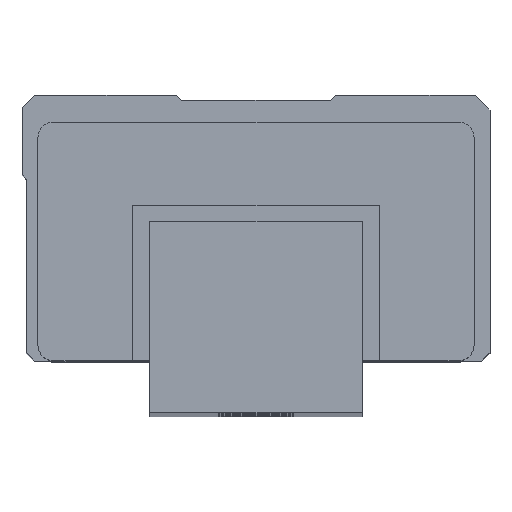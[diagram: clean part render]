
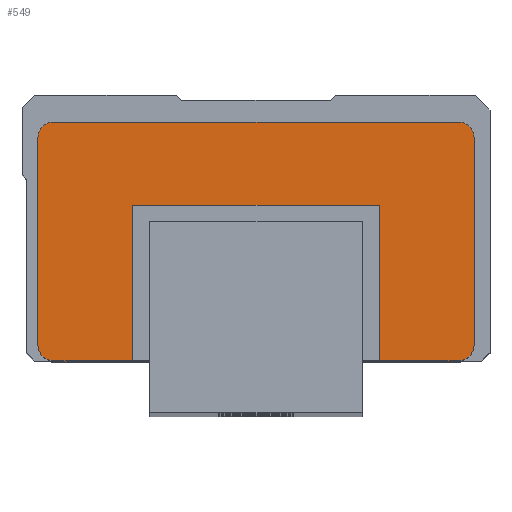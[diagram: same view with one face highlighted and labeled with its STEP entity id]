
A CAD part, top view. The second image highlights one B-rep face of the part: STEP entity #549.
In plain terms, the highlighted planar face has unit normal (0, 0, 1).
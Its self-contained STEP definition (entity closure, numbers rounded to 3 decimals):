
#549 = ADVANCED_FACE( '', ( #847 ), #848, .T. );
#847 = FACE_OUTER_BOUND( '', #1143, .T. );
#848 = PLANE( '', #1144 );
#1143 = EDGE_LOOP( '', ( #2209, #2210, #2211, #2212, #2213, #2214, #2215, #2216, #2217, #2218, #2219, #2220 ) );
#1144 = AXIS2_PLACEMENT_3D( '', #2221, #2222, #2223 );
#2209 = ORIENTED_EDGE( '', *, *, #2551, .F. );
#2210 = ORIENTED_EDGE( '', *, *, #2575, .F. );
#2211 = ORIENTED_EDGE( '', *, *, #2572, .F. );
#2212 = ORIENTED_EDGE( '', *, *, #2569, .F. );
#2213 = ORIENTED_EDGE( '', *, *, #2566, .F. );
#2214 = ORIENTED_EDGE( '', *, *, #2563, .F. );
#2215 = ORIENTED_EDGE( '', *, *, #2546, .F. );
#2216 = ORIENTED_EDGE( '', *, *, #2533, .F. );
#2217 = ORIENTED_EDGE( '', *, *, #2529, .F. );
#2218 = ORIENTED_EDGE( '', *, *, #2561, .F. );
#2219 = ORIENTED_EDGE( '', *, *, #2558, .F. );
#2220 = ORIENTED_EDGE( '', *, *, #2555, .F. );
#2221 = CARTESIAN_POINT( '', ( 10., 17.685, 154.039 ) );
#2222 = DIRECTION( '', ( 0., 0., 1. ) );
#2223 = DIRECTION( '', ( 1., 0., 0. ) );
#2529 = EDGE_CURVE( '', #3055, #3056, #3057, .T. );
#2533 = EDGE_CURVE( '', #3056, #3063, #3064, .T. );
#2546 = EDGE_CURVE( '', #3063, #3086, #3087, .T. );
#2551 = EDGE_CURVE( '', #3093, #3094, #3095, .T. );
#2555 = EDGE_CURVE( '', #3094, #3101, #3102, .T. );
#2558 = EDGE_CURVE( '', #3101, #3106, #3107, .T. );
#2561 = EDGE_CURVE( '', #3106, #3055, #3111, .T. );
#2563 = EDGE_CURVE( '', #3086, #3113, #3114, .T. );
#2566 = EDGE_CURVE( '', #3113, #3118, #3119, .T. );
#2569 = EDGE_CURVE( '', #3118, #3123, #3124, .T. );
#2572 = EDGE_CURVE( '', #3123, #3128, #3129, .T. );
#2575 = EDGE_CURVE( '', #3128, #3093, #3133, .T. );
#3055 = VERTEX_POINT( '', #3815 );
#3056 = VERTEX_POINT( '', #3816 );
#3057 = LINE( '', #3817, #3818 );
#3063 = VERTEX_POINT( '', #3827 );
#3064 = LINE( '', #3828, #3829 );
#3086 = VERTEX_POINT( '', #3863 );
#3087 = LINE( '', #3864, #3865 );
#3093 = VERTEX_POINT( '', #3875 );
#3094 = VERTEX_POINT( '', #3876 );
#3095 = CIRCLE( '', #3877, 1.5 );
#3101 = VERTEX_POINT( '', #3885 );
#3102 = LINE( '', #3886, #3887 );
#3106 = VERTEX_POINT( '', #3893 );
#3107 = CIRCLE( '', #3894, 1.5 );
#3111 = LINE( '', #3899, #3900 );
#3113 = VERTEX_POINT( '', #3903 );
#3114 = LINE( '', #3904, #3905 );
#3118 = VERTEX_POINT( '', #3911 );
#3119 = CIRCLE( '', #3912, 1.5 );
#3123 = VERTEX_POINT( '', #3917 );
#3124 = LINE( '', #3918, #3919 );
#3128 = VERTEX_POINT( '', #3925 );
#3129 = CIRCLE( '', #3926, 1.5 );
#3133 = LINE( '', #3931, #3932 );
#3815 = CARTESIAN_POINT( '', ( 21.6, 5., 154.039 ) );
#3816 = CARTESIAN_POINT( '', ( 21.6, 19.6, 154.039 ) );
#3817 = CARTESIAN_POINT( '', ( 21.6, 5., 154.039 ) );
#3818 = VECTOR( '', #4401, 1. );
#3827 = CARTESIAN_POINT( '', ( -1.6, 19.6, 154.039 ) );
#3828 = CARTESIAN_POINT( '', ( 21.6, 19.6, 154.039 ) );
#3829 = VECTOR( '', #4405, 1. );
#3863 = CARTESIAN_POINT( '', ( -1.6, 5., 154.039 ) );
#3864 = CARTESIAN_POINT( '', ( -1.6, 5., 154.039 ) );
#3865 = VECTOR( '', #4418, 1. );
#3875 = CARTESIAN_POINT( '', ( 29., 27.45, 154.039 ) );
#3876 = CARTESIAN_POINT( '', ( 30.5, 25.95, 154.039 ) );
#3877 = AXIS2_PLACEMENT_3D( '', #4423, #4424, #4425 );
#3885 = CARTESIAN_POINT( '', ( 30.5, 6.5, 154.039 ) );
#3886 = CARTESIAN_POINT( '', ( 30.5, 25.95, 154.039 ) );
#3887 = VECTOR( '', #4431, 1. );
#3893 = CARTESIAN_POINT( '', ( 29., 5., 154.039 ) );
#3894 = AXIS2_PLACEMENT_3D( '', #4434, #4435, #4436 );
#3899 = CARTESIAN_POINT( '', ( 29., 5., 154.039 ) );
#3900 = VECTOR( '', #4441, 1. );
#3903 = CARTESIAN_POINT( '', ( -9., 5., 154.039 ) );
#3904 = CARTESIAN_POINT( '', ( -1.6, 5., 154.039 ) );
#3905 = VECTOR( '', #4443, 1. );
#3911 = CARTESIAN_POINT( '', ( -10.5, 6.5, 154.039 ) );
#3912 = AXIS2_PLACEMENT_3D( '', #4446, #4447, #4448 );
#3917 = CARTESIAN_POINT( '', ( -10.5, 25.95, 154.039 ) );
#3918 = CARTESIAN_POINT( '', ( -10.5, 25.95, 154.039 ) );
#3919 = VECTOR( '', #4453, 1. );
#3925 = CARTESIAN_POINT( '', ( -9., 27.45, 154.039 ) );
#3926 = AXIS2_PLACEMENT_3D( '', #4456, #4457, #4458 );
#3931 = CARTESIAN_POINT( '', ( -9., 27.45, 154.039 ) );
#3932 = VECTOR( '', #4463, 1. );
#4401 = DIRECTION( '', ( 0., 1., 0. ) );
#4405 = DIRECTION( '', ( -1., 0., 0. ) );
#4418 = DIRECTION( '', ( 0., -1., 0. ) );
#4423 = CARTESIAN_POINT( '', ( 29., 25.95, 154.039 ) );
#4424 = DIRECTION( '', ( 0., 0., -1. ) );
#4425 = DIRECTION( '', ( 1., 0., 0. ) );
#4431 = DIRECTION( '', ( 0., -1., 0. ) );
#4434 = CARTESIAN_POINT( '', ( 29., 6.5, 154.039 ) );
#4435 = DIRECTION( '', ( 0., 0., -1. ) );
#4436 = DIRECTION( '', ( 1., 0., 0. ) );
#4441 = DIRECTION( '', ( -1., 0., 0. ) );
#4443 = DIRECTION( '', ( -1., 0., 0. ) );
#4446 = CARTESIAN_POINT( '', ( -9., 6.5, 154.039 ) );
#4447 = DIRECTION( '', ( 0., 0., -1. ) );
#4448 = DIRECTION( '', ( 1., 0., 0. ) );
#4453 = DIRECTION( '', ( 0., 1., 0. ) );
#4456 = CARTESIAN_POINT( '', ( -9., 25.95, 154.039 ) );
#4457 = DIRECTION( '', ( 0., 0., -1. ) );
#4458 = DIRECTION( '', ( 1., 0., 0. ) );
#4463 = DIRECTION( '', ( 1., 0., 0. ) );
